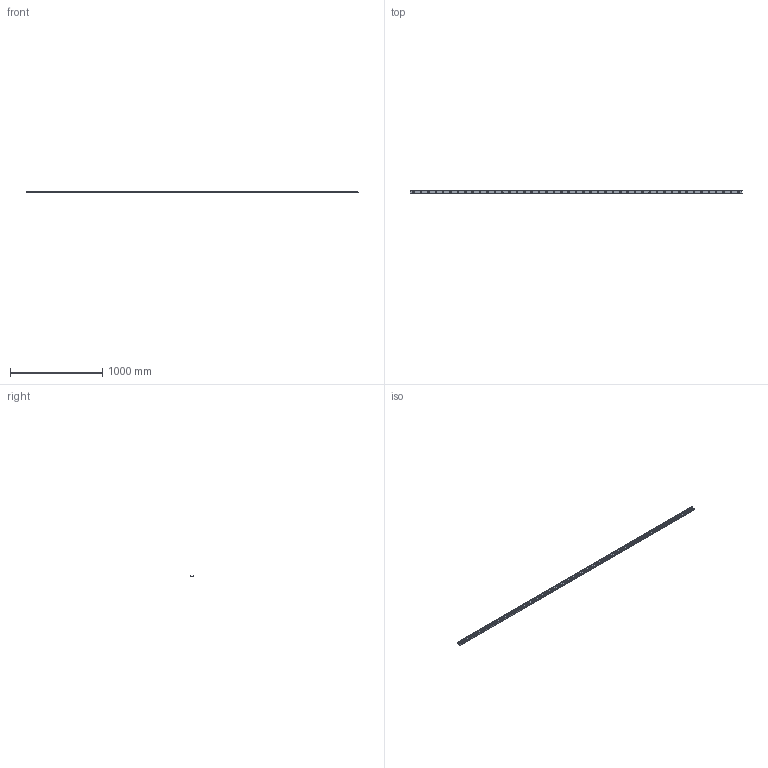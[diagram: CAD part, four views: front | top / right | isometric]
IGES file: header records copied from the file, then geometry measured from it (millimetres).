
Start section: SolidWorks IGES file using analytic representation for surfaces
Global section: file name: C:\Users\IanO\Desktop\43\L1943.ULV43_v2_20180121_IGES\L1943.ULV43-3600.igs; native system: SolidWorks 2017; preprocessor: SolidWorks 2017; author: IanO; date: 190121.090618; units: millimetre
Bounding box: 3600 x 43 x 21 mm (x, y, z)
Surface area: 558431.4 mm2 (no closed solid volume)
Topology: 0 solids, 0 shells, 206 faces, 3894 edges, 3894 vertices
Faces by surface type: revolution 193, bspline 13
